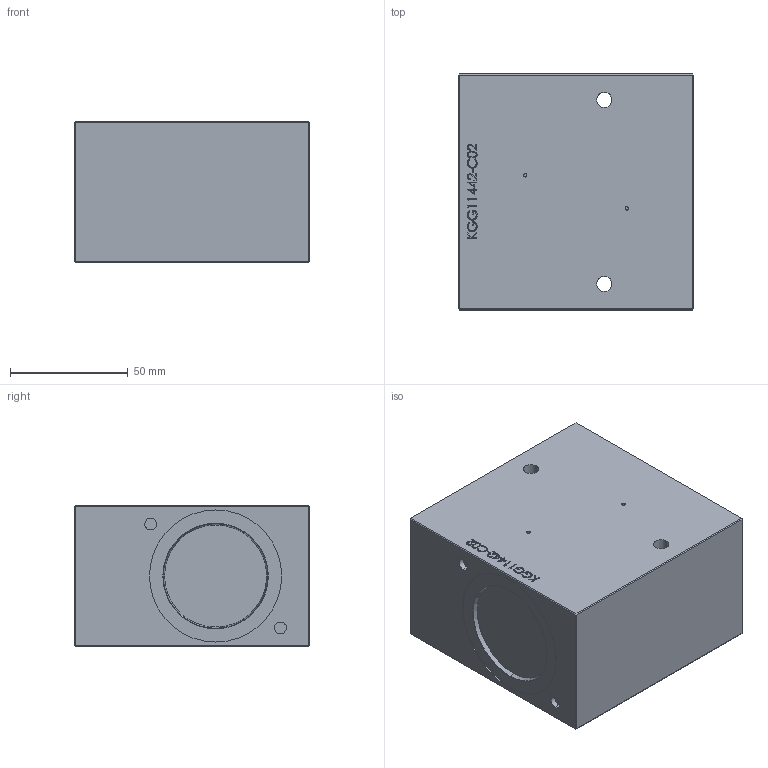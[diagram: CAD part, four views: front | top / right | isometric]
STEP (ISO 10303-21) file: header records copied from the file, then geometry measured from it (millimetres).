
FILE_DESCRIPTION (( 'STEP AP214' ), '1' );
FILE_NAME ('KGG11442-C02.STEP', '2016-11-25T10:44:18', ( '' ), ( '' ), 'SwSTEP 2.0', 'SolidWorks 2014', '' );
FILE_SCHEMA (( 'AUTOMOTIVE_DESIGN' ));
Length unit declared in the file: millimetre
Products named in the file (2): KGG11442-C02
Bounding box: 100 x 100 x 60 mm (x, y, z)
Volume: 583170.8 mm3; surface area: 47295.2 mm2
Topology: 1 solids, 1 shells, 220 faces, 547 edges, 356 vertices
Faces by surface type: plane 140, bspline 54, cylinder 22, cone 2, torus 2
Entity records: 10172 total; most frequent: CARTESIAN_POINT 5115, ORIENTED_EDGE 1094, DIRECTION 827, EDGE_CURVE 547, VECTOR 387, LINE 387, VERTEX_POINT 356, EDGE_LOOP 251
